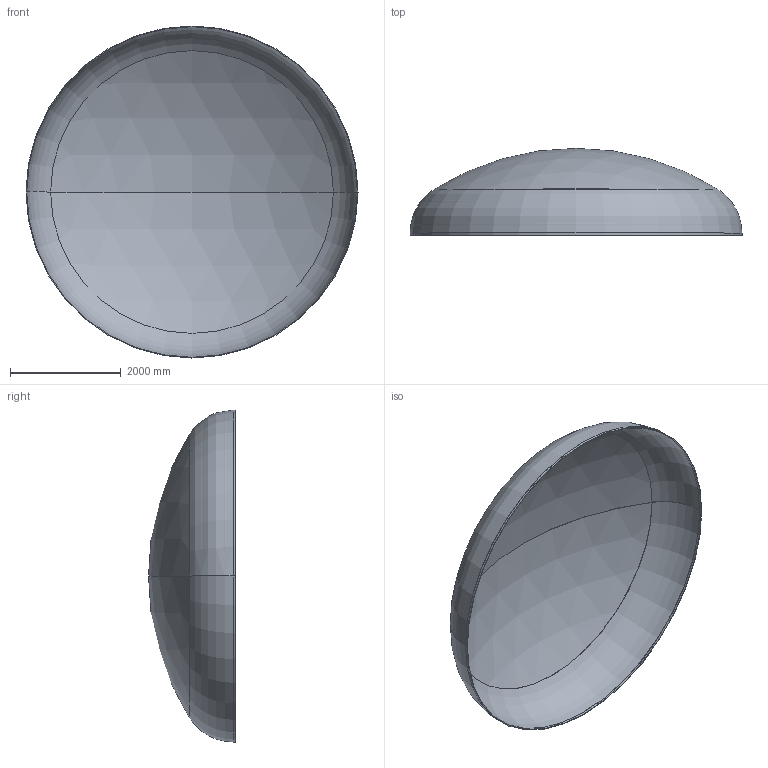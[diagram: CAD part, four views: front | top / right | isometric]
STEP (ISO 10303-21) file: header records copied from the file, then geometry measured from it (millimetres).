
FILE_DESCRIPTION (( 'STEP AP203' ), '1' );
FILE_NAME ('DIN 28013 Korbbogenform_-_Boden DIN 28013 - 6000 x 40 - I - s=12.step', '2016-07-04T10:35:44', ( '' ), ( '' ), 'SwSTEP 2.0', 'SolidWorks 2013', '' );
FILE_SCHEMA (( 'CONFIG_CONTROL_DESIGN' ));
Length unit declared in the file: millimetre
Products named in the file (1): DIN 28013 Korbbogenform_-_Boden DIN 28013 - 6000 x 40 - I - s=12
Bounding box: 6000 x 1571.81 x 6000 mm (x, y, z)
Volume: 477844657.4 mm3; surface area: 79866787.3 mm2
Topology: 1 solids, 1 shells, 13 faces, 24 edges, 14 vertices
Faces by surface type: torus 4, cylinder 4, sphere 4, plane 1
Entity records: 407 total; most frequent: DIRECTION 72, CARTESIAN_POINT 52, ORIENTED_EDGE 48, AXIS2_PLACEMENT_3D 34, EDGE_CURVE 24, CIRCLE 20, EDGE_LOOP 14, VERTEX_POINT 14
